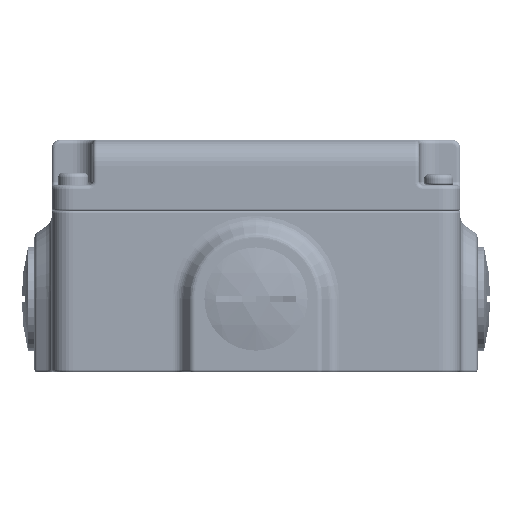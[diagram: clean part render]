
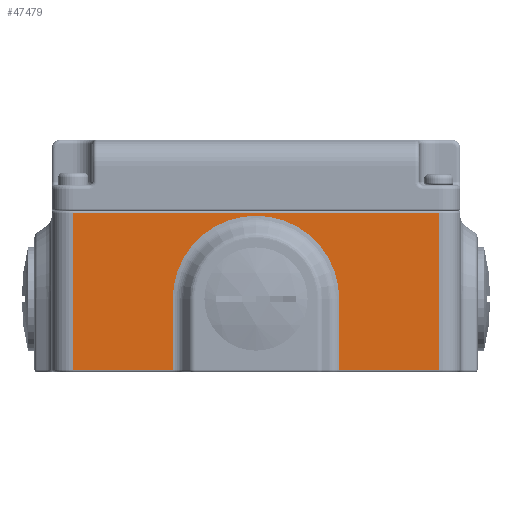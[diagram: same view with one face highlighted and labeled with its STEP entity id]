
A CAD part, front view. The second image highlights one B-rep face of the part: STEP entity #47479.
In plain terms, the highlighted planar face has unit normal (0, -1, 0).
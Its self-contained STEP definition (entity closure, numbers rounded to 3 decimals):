
#917 = CARTESIAN_POINT ( 'NONE',  ( 42.5, -190.5, 40. ) ) ;
#1325 = CARTESIAN_POINT ( 'NONE',  ( 0., -190.5, 17. ) ) ;
#5764 = VECTOR ( 'NONE', #73071, 1000. ) ;
#6879 = AXIS2_PLACEMENT_3D ( 'NONE', #116874, #24551, #96545 ) ;
#8462 = DIRECTION ( 'NONE',  ( 1., 0., 0. ) ) ;
#9646 = LINE ( 'NONE', #119324, #115999 ) ;
#11765 = DIRECTION ( 'NONE',  ( 0., 0., 1. ) ) ;
#13252 = CARTESIAN_POINT ( 'NONE',  ( -19.363, -190.5, 17. ) ) ;
#15247 = EDGE_CURVE ( 'NONE', #43127, #32971, #128966, .T. ) ;
#16089 = CARTESIAN_POINT ( 'NONE',  ( -19.363, -190.5, 0.5 ) ) ;
#18464 = VECTOR ( 'NONE', #29332, 1000. ) ;
#22262 = ORIENTED_EDGE ( 'NONE', *, *, #36646, .T. ) ;
#22605 = ORIENTED_EDGE ( 'NONE', *, *, #35636, .T. ) ;
#24551 = DIRECTION ( 'NONE',  ( 0., 1., 0. ) ) ;
#25189 = VERTEX_POINT ( 'NONE', #42513 ) ;
#27059 = CARTESIAN_POINT ( 'NONE',  ( 0., -190.5, 36.363 ) ) ;
#27311 = CARTESIAN_POINT ( 'NONE',  ( 19.363, -190.5, 0.5 ) ) ;
#28797 = CARTESIAN_POINT ( 'NONE',  ( -19.363, -190.5, 0.5 ) ) ;
#29137 = CARTESIAN_POINT ( 'NONE',  ( 19.363, -190.5, 17. ) ) ;
#29332 = DIRECTION ( 'NONE',  ( 0., 0., 1. ) ) ;
#32971 = VERTEX_POINT ( 'NONE', #27059 ) ;
#34290 = CARTESIAN_POINT ( 'NONE',  ( -42.5, -190.5, 0.5 ) ) ;
#35195 = VERTEX_POINT ( 'NONE', #63702 ) ;
#35636 = EDGE_CURVE ( 'NONE', #32971, #65635, #70334, .T. ) ;
#36646 = EDGE_CURVE ( 'NONE', #100903, #43127, #124861, .T. ) ;
#37507 = LINE ( 'NONE', #28797, #89014 ) ;
#39175 = DIRECTION ( 'NONE',  ( 0., 1., 0. ) ) ;
#39718 = VERTEX_POINT ( 'NONE', #27311 ) ;
#40657 = LINE ( 'NONE', #127482, #68116 ) ;
#42513 = CARTESIAN_POINT ( 'NONE',  ( 42.5, -190.5, 37. ) ) ;
#43127 = VERTEX_POINT ( 'NONE', #13252 ) ;
#45371 = LINE ( 'NONE', #53942, #96915 ) ;
#45904 = CARTESIAN_POINT ( 'NONE',  ( -42.5, -190.5, 37. ) ) ;
#47479 = ADVANCED_FACE ( 'NONE', ( #68322 ), #95694, .F. ) ;
#49694 = VECTOR ( 'NONE', #79741, 1000. ) ;
#53942 = CARTESIAN_POINT ( 'NONE',  ( 42.5, -190.5, 0.5 ) ) ;
#55464 = DIRECTION ( 'NONE',  ( -1., 0., 0. ) ) ;
#57679 = DIRECTION ( 'NONE',  ( 0., 0., -1. ) ) ;
#60508 = EDGE_CURVE ( 'NONE', #39718, #35195, #45371, .T. ) ;
#60644 = LINE ( 'NONE', #917, #5764 ) ;
#61260 = EDGE_LOOP ( 'NONE', ( #130005, #103181, #110714, #91670, #85351, #81265, #22262, #104361, #22605 ) ) ;
#63702 = CARTESIAN_POINT ( 'NONE',  ( 42.5, -190.5, 0.5 ) ) ;
#65635 = VERTEX_POINT ( 'NONE', #29137 ) ;
#68116 = VECTOR ( 'NONE', #55464, 1000. ) ;
#68322 = FACE_OUTER_BOUND ( 'NONE', #61260, .T. ) ;
#70334 = CIRCLE ( 'NONE', #118591, 19.363 ) ;
#72536 = AXIS2_PLACEMENT_3D ( 'NONE', #1325, #73479, #11765 ) ;
#73071 = DIRECTION ( 'NONE',  ( 0., 0., 1. ) ) ;
#73479 = DIRECTION ( 'NONE',  ( 0., 1., 0. ) ) ;
#73638 = EDGE_CURVE ( 'NONE', #105896, #100903, #37507, .T. ) ;
#74110 = DIRECTION ( 'NONE',  ( 1., 0., 0. ) ) ;
#79741 = DIRECTION ( 'NONE',  ( 0., 0., -1. ) ) ;
#81265 = ORIENTED_EDGE ( 'NONE', *, *, #73638, .T. ) ;
#84802 = EDGE_CURVE ( 'NONE', #65635, #39718, #107636, .T. ) ;
#85351 = ORIENTED_EDGE ( 'NONE', *, *, #94345, .T. ) ;
#89014 = VECTOR ( 'NONE', #8462, 1000. ) ;
#90992 = CARTESIAN_POINT ( 'NONE',  ( -19.363, -190.5, 17. ) ) ;
#91670 = ORIENTED_EDGE ( 'NONE', *, *, #121241, .T. ) ;
#94345 = EDGE_CURVE ( 'NONE', #123533, #105896, #9646, .T. ) ;
#95694 = PLANE ( 'NONE',  #6879 ) ;
#96545 = DIRECTION ( 'NONE',  ( 0., 0., 1. ) ) ;
#96915 = VECTOR ( 'NONE', #74110, 1000. ) ;
#100801 = CARTESIAN_POINT ( 'NONE',  ( 0., -190.5, 17. ) ) ;
#100903 = VERTEX_POINT ( 'NONE', #16089 ) ;
#103181 = ORIENTED_EDGE ( 'NONE', *, *, #60508, .T. ) ;
#104361 = ORIENTED_EDGE ( 'NONE', *, *, #15247, .T. ) ;
#105896 = VERTEX_POINT ( 'NONE', #34290 ) ;
#107636 = LINE ( 'NONE', #131118, #49694 ) ;
#110714 = ORIENTED_EDGE ( 'NONE', *, *, #126553, .T. ) ;
#111178 = DIRECTION ( 'NONE',  ( 0., 0., 1. ) ) ;
#115999 = VECTOR ( 'NONE', #57679, 1000. ) ;
#116874 = CARTESIAN_POINT ( 'NONE',  ( -47.5, -190.5, 40. ) ) ;
#118591 = AXIS2_PLACEMENT_3D ( 'NONE', #100801, #39175, #111178 ) ;
#119324 = CARTESIAN_POINT ( 'NONE',  ( -42.5, -190.5, 40. ) ) ;
#121241 = EDGE_CURVE ( 'NONE', #25189, #123533, #40657, .T. ) ;
#123533 = VERTEX_POINT ( 'NONE', #45904 ) ;
#124861 = LINE ( 'NONE', #90992, #18464 ) ;
#126553 = EDGE_CURVE ( 'NONE', #35195, #25189, #60644, .T. ) ;
#127482 = CARTESIAN_POINT ( 'NONE',  ( -47.5, -190.5, 37. ) ) ;
#128966 = CIRCLE ( 'NONE', #72536, 19.363 ) ;
#130005 = ORIENTED_EDGE ( 'NONE', *, *, #84802, .T. ) ;
#131118 = CARTESIAN_POINT ( 'NONE',  ( 19.363, -190.5, 0. ) ) ;
